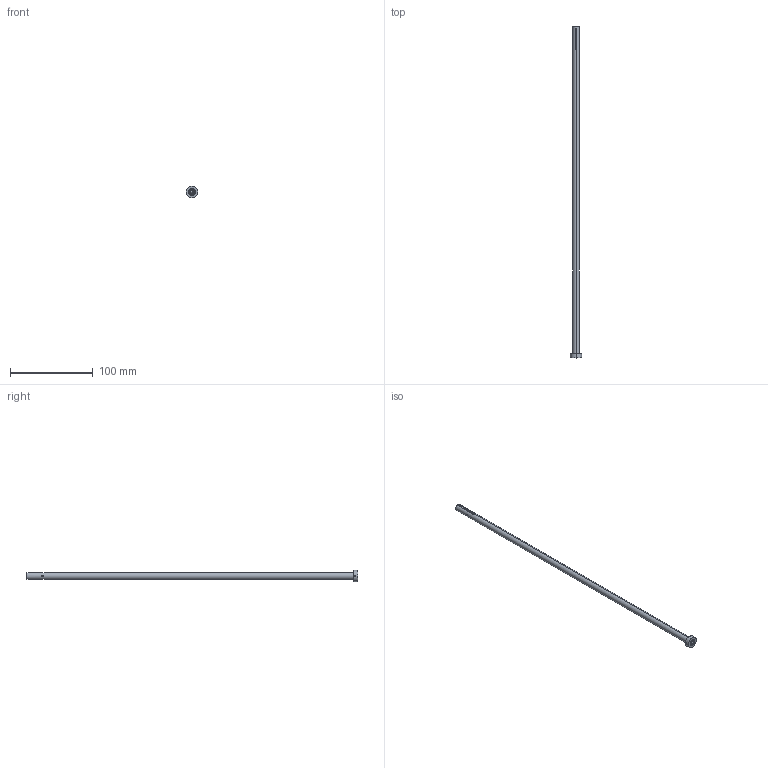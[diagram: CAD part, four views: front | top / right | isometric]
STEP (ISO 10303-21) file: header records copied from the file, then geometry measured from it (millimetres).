
FILE_DESCRIPTION (( 'STEP AP203' ), '1' );
FILE_NAME ('SGDE-805x400.STEP', '2017-01-10T15:43:13', ( 'Balzi' ), ( '' ), 'SwSTEP 2.0', 'SolidWorks 2016', '' );
FILE_SCHEMA (( 'CONFIG_CONTROL_DESIGN' ));
Length unit declared in the file: millimetre
Products named in the file (1): SGDE-805x400
Bounding box: 14 x 400.5 x 14 mm (x, y, z)
Volume: 12450.1 mm3; surface area: 17600.5 mm2
Topology: 1 solids, 1 shells, 84 faces, 234 edges, 154 vertices
Faces by surface type: cylinder 48, plane 32, cone 4
Entity records: 3313 total; most frequent: CARTESIAN_POINT 1077, ORIENTED_EDGE 468, DIRECTION 422, EDGE_CURVE 234, AXIS2_PLACEMENT_3D 155, VERTEX_POINT 154, VECTOR 112, LINE 112
